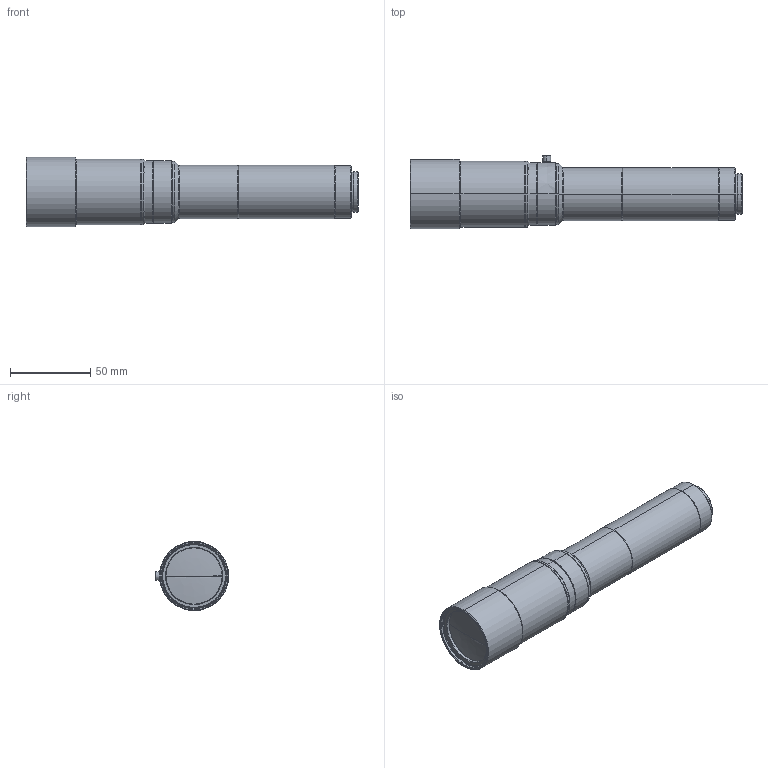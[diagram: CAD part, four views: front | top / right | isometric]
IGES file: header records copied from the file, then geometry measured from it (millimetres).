
Start section: SolidWorks IGES file using analytic representation for surfaces
Bounding box: 206.47 x 45.55 x 43 mm (x, y, z)
Surface area: 27732 mm2 (no closed solid volume)
Topology: 0 solids, 0 shells, 118 faces, 2130 edges, 2129 vertices
Faces by surface type: revolution 102, bspline 16
